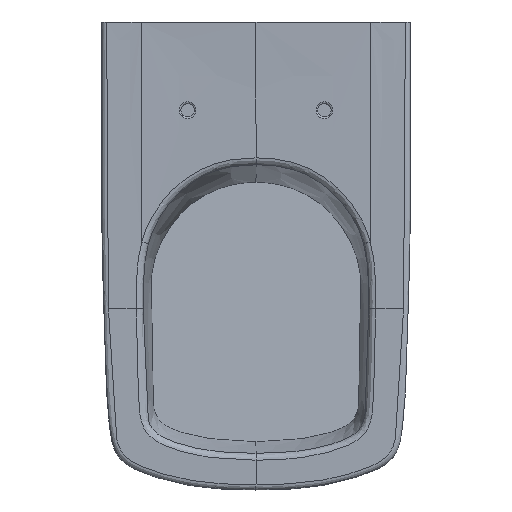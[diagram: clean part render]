
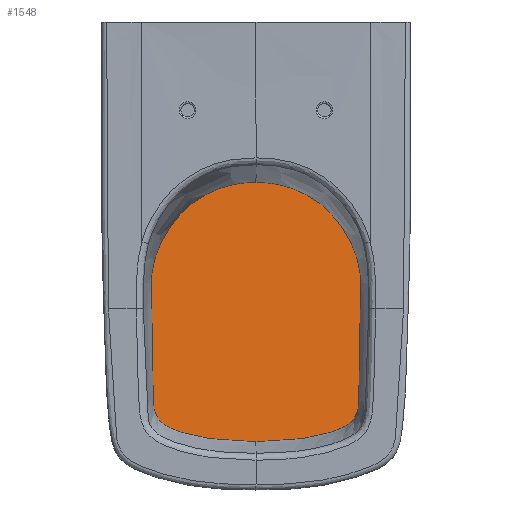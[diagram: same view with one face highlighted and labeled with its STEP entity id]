
A CAD part, top view. The second image highlights one B-rep face of the part: STEP entity #1548.
In plain terms, the highlighted planar face has unit normal (0, 0.071, 0.998).
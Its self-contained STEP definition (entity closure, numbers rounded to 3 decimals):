
#126=PLANE('',#1635);
#212=FACE_OUTER_BOUND('',#316,.T.);
#316=EDGE_LOOP('',(#1261,#1262,#1263,#1264,#1265,#1266));
#356=LINE('',#21516,#387);
#357=LINE('',#21518,#388);
#387=VECTOR('',#1778,30.);
#388=VECTOR('',#1779,30.);
#477=B_SPLINE_CURVE_WITH_KNOTS('',3,(#14052,#14053,#14054,#14055,#14056,
#14057,#14058,#14059,#14060,#14061,#14062,#14063,#14064,#14065,#14066,#14067,
#14068,#14069,#14070,#14071,#14072,#14073,#14074,#14075,#14076,#14077,#14078,
#14079,#14080,#14081,#14082,#14083,#14084,#14085,#14086,#14087,#14088),
 .UNSPECIFIED.,.F.,.F.,(4,1,1,1,1,1,1,1,1,1,1,1,1,1,1,1,1,1,1,1,1,1,1,1,
1,1,1,1,1,1,1,1,1,1,4),(0.,0.037,0.074,
0.092,0.111,0.147,0.184,
0.203,0.221,0.239,0.258,
0.276,0.295,0.313,0.332,
0.368,0.387,0.405,0.442,
0.479,0.516,0.553,0.571,
0.589,0.615,0.641,0.666,
0.692,0.718,0.743,0.795,0.846,
0.897,0.949,1.),.UNSPECIFIED.);
#518=B_SPLINE_CURVE_WITH_KNOTS('',3,(#21478,#21479,#21480,#21481,#21482,
#21483,#21484,#21485,#21486,#21487,#21488,#21489,#21490,#21491,#21492,#21493,
#21494,#21495,#21496,#21497,#21498,#21499,#21500,#21501,#21502,#21503,#21504,
#21505,#21506,#21507,#21508,#21509,#21510,#21511,#21512,#21513,#21514),
 .UNSPECIFIED.,.F.,.F.,(4,1,1,1,1,1,1,1,1,1,1,1,1,1,1,1,1,1,1,1,1,1,1,1,
1,1,1,1,1,1,1,1,1,1,4),(0.,0.037,0.074,0.092,
0.111,0.147,0.184,0.203,
0.221,0.239,0.258,0.276,
0.295,0.313,0.332,0.368,
0.387,0.405,0.442,0.479,
0.516,0.553,0.571,0.589,
0.615,0.641,0.666,0.692,
0.718,0.743,0.795,0.846,
0.897,0.949,1.),.UNSPECIFIED.);
#632=VERTEX_POINT('',#14050);
#633=VERTEX_POINT('',#14051);
#656=VERTEX_POINT('',#21515);
#657=VERTEX_POINT('',#21517);
#812=EDGE_CURVE('',#632,#633,#477,.T.);
#865=EDGE_CURVE('',#632,#633,#518,.T.);
#866=EDGE_CURVE('',#656,#633,#356,.T.);
#867=EDGE_CURVE('',#632,#657,#357,.T.);
#1261=ORIENTED_EDGE('',*,*,#865,.T.);
#1262=ORIENTED_EDGE('',*,*,#866,.F.);
#1263=ORIENTED_EDGE('',*,*,#866,.T.);
#1264=ORIENTED_EDGE('',*,*,#812,.F.);
#1265=ORIENTED_EDGE('',*,*,#867,.T.);
#1266=ORIENTED_EDGE('',*,*,#867,.F.);
#1548=ADVANCED_FACE('',(#212),#126,.T.);
#1635=AXIS2_PLACEMENT_3D('',#21477,#1776,#1777);
#1776=DIRECTION('center_axis',(0.,0.071,
0.997));
#1777=DIRECTION('ref_axis',(0.,-0.997,0.071));
#1778=DIRECTION('',(0.,0.997,-0.071));
#1779=DIRECTION('',(0.,0.997,-0.071));
#14050=CARTESIAN_POINT('',(0.001,-475.29,341.));
#14051=CARTESIAN_POINT('',(0.001,-181.436,320.));
#14052=CARTESIAN_POINT('Ctrl Pts',(0.001,-475.29,
341.));
#14053=CARTESIAN_POINT('Ctrl Pts',(-8.816,-475.29,
341.));
#14054=CARTESIAN_POINT('Ctrl Pts',(-25.504,-474.722,
340.959));
#14055=CARTESIAN_POINT('Ctrl Pts',(-43.469,-473.03,340.838));
#14056=CARTESIAN_POINT('Ctrl Pts',(-55.561,-471.34,340.718));
#14057=CARTESIAN_POINT('Ctrl Pts',(-66.09,-469.525,
340.588));
#14058=CARTESIAN_POINT('Ctrl Pts',(-77.112,-467.07,
340.413));
#14059=CARTESIAN_POINT('Ctrl Pts',(-87.556,-463.884,
340.185));
#14060=CARTESIAN_POINT('Ctrl Pts',(-94.726,-461.044,
339.982));
#14061=CARTESIAN_POINT('Ctrl Pts',(-99.595,-458.678,
339.813));
#14062=CARTESIAN_POINT('Ctrl Pts',(-104.165,-455.842,
339.61));
#14063=CARTESIAN_POINT('Ctrl Pts',(-108.374,-452.284,339.356));
#14064=CARTESIAN_POINT('Ctrl Pts',(-111.748,-447.963,
339.047));
#14065=CARTESIAN_POINT('Ctrl Pts',(-114.076,-443.013,
338.693));
#14066=CARTESIAN_POINT('Ctrl Pts',(-115.526,-438.016,
338.336));
#14067=CARTESIAN_POINT('Ctrl Pts',(-116.779,-431.157,
337.846));
#14068=CARTESIAN_POINT('Ctrl Pts',(-117.357,-423.724,
337.315));
#14069=CARTESIAN_POINT('Ctrl Pts',(-117.733,-416.228,
336.779));
#14070=CARTESIAN_POINT('Ctrl Pts',(-118.087,-408.613,
336.235));
#14071=CARTESIAN_POINT('Ctrl Pts',(-118.478,-398.419,
335.506));
#14072=CARTESIAN_POINT('Ctrl Pts',(-118.907,-384.112,
334.484));
#14073=CARTESIAN_POINT('Ctrl Pts',(-119.297,-366.649,
333.236));
#14074=CARTESIAN_POINT('Ctrl Pts',(-119.571,-349.171,
331.987));
#14075=CARTESIAN_POINT('Ctrl Pts',(-119.748,-335.281,
330.994));
#14076=CARTESIAN_POINT('Ctrl Pts',(-119.889,-323.668,
330.165));
#14077=CARTESIAN_POINT('Ctrl Pts',(-119.979,-310.571,
329.229));
#14078=CARTESIAN_POINT('Ctrl Pts',(-119.485,-295.756,
328.17));
#14079=CARTESIAN_POINT('Ctrl Pts',(-117.915,-281.496,
327.151));
#14080=CARTESIAN_POINT('Ctrl Pts',(-114.915,-268.094,
326.193));
#14081=CARTESIAN_POINT('Ctrl Pts',(-110.457,-255.416,
325.287));
#14082=CARTESIAN_POINT('Ctrl Pts',(-102.872,-239.536,
324.152));
#14083=CARTESIAN_POINT('Ctrl Pts',(-90.703,-221.897,
322.892));
#14084=CARTESIAN_POINT('Ctrl Pts',(-72.476,-204.497,
321.648));
#14085=CARTESIAN_POINT('Ctrl Pts',(-50.982,-191.46,
320.716));
#14086=CARTESIAN_POINT('Ctrl Pts',(-26.978,-183.377,
320.139));
#14087=CARTESIAN_POINT('Ctrl Pts',(-9.318,-181.436,
320.));
#14088=CARTESIAN_POINT('Ctrl Pts',(0.001,-181.436,
320.));
#21477=CARTESIAN_POINT('Origin',(-124.711,-175.559,319.58));
#21478=CARTESIAN_POINT('Ctrl Pts',(0.001,-475.29,
341.));
#21479=CARTESIAN_POINT('Ctrl Pts',(8.818,-475.29,341.));
#21480=CARTESIAN_POINT('Ctrl Pts',(25.506,-474.722,340.959));
#21481=CARTESIAN_POINT('Ctrl Pts',(43.471,-473.03,340.838));
#21482=CARTESIAN_POINT('Ctrl Pts',(55.563,-471.34,340.718));
#21483=CARTESIAN_POINT('Ctrl Pts',(66.092,-469.525,340.588));
#21484=CARTESIAN_POINT('Ctrl Pts',(77.114,-467.07,340.413));
#21485=CARTESIAN_POINT('Ctrl Pts',(87.558,-463.884,340.185));
#21486=CARTESIAN_POINT('Ctrl Pts',(94.728,-461.044,339.982));
#21487=CARTESIAN_POINT('Ctrl Pts',(99.597,-458.678,339.813));
#21488=CARTESIAN_POINT('Ctrl Pts',(104.167,-455.842,339.61));
#21489=CARTESIAN_POINT('Ctrl Pts',(108.376,-452.284,339.356));
#21490=CARTESIAN_POINT('Ctrl Pts',(111.75,-447.963,339.047));
#21491=CARTESIAN_POINT('Ctrl Pts',(114.078,-443.013,338.693));
#21492=CARTESIAN_POINT('Ctrl Pts',(115.528,-438.016,338.336));
#21493=CARTESIAN_POINT('Ctrl Pts',(116.781,-431.157,337.846));
#21494=CARTESIAN_POINT('Ctrl Pts',(117.359,-423.724,337.315));
#21495=CARTESIAN_POINT('Ctrl Pts',(117.735,-416.228,336.779));
#21496=CARTESIAN_POINT('Ctrl Pts',(118.089,-408.613,336.235));
#21497=CARTESIAN_POINT('Ctrl Pts',(118.48,-398.419,335.506));
#21498=CARTESIAN_POINT('Ctrl Pts',(118.909,-384.112,334.484));
#21499=CARTESIAN_POINT('Ctrl Pts',(119.299,-366.649,333.236));
#21500=CARTESIAN_POINT('Ctrl Pts',(119.573,-349.171,331.987));
#21501=CARTESIAN_POINT('Ctrl Pts',(119.75,-335.281,330.994));
#21502=CARTESIAN_POINT('Ctrl Pts',(119.891,-323.668,330.165));
#21503=CARTESIAN_POINT('Ctrl Pts',(119.981,-310.571,329.229));
#21504=CARTESIAN_POINT('Ctrl Pts',(119.487,-295.756,328.17));
#21505=CARTESIAN_POINT('Ctrl Pts',(117.917,-281.496,327.151));
#21506=CARTESIAN_POINT('Ctrl Pts',(114.917,-268.094,326.193));
#21507=CARTESIAN_POINT('Ctrl Pts',(110.459,-255.416,325.287));
#21508=CARTESIAN_POINT('Ctrl Pts',(102.874,-239.536,324.152));
#21509=CARTESIAN_POINT('Ctrl Pts',(90.705,-221.897,322.892));
#21510=CARTESIAN_POINT('Ctrl Pts',(72.478,-204.497,321.648));
#21511=CARTESIAN_POINT('Ctrl Pts',(50.984,-191.46,320.716));
#21512=CARTESIAN_POINT('Ctrl Pts',(26.98,-183.377,320.139));
#21513=CARTESIAN_POINT('Ctrl Pts',(9.32,-181.436,320.));
#21514=CARTESIAN_POINT('Ctrl Pts',(0.001,-181.436,
320.));
#21515=CARTESIAN_POINT('',(0.001,-211.36,322.138));
#21516=CARTESIAN_POINT('',(0.001,-175.559,319.58));
#21517=CARTESIAN_POINT('',(0.001,-445.366,338.862));
#21518=CARTESIAN_POINT('',(0.001,-175.559,319.58));
